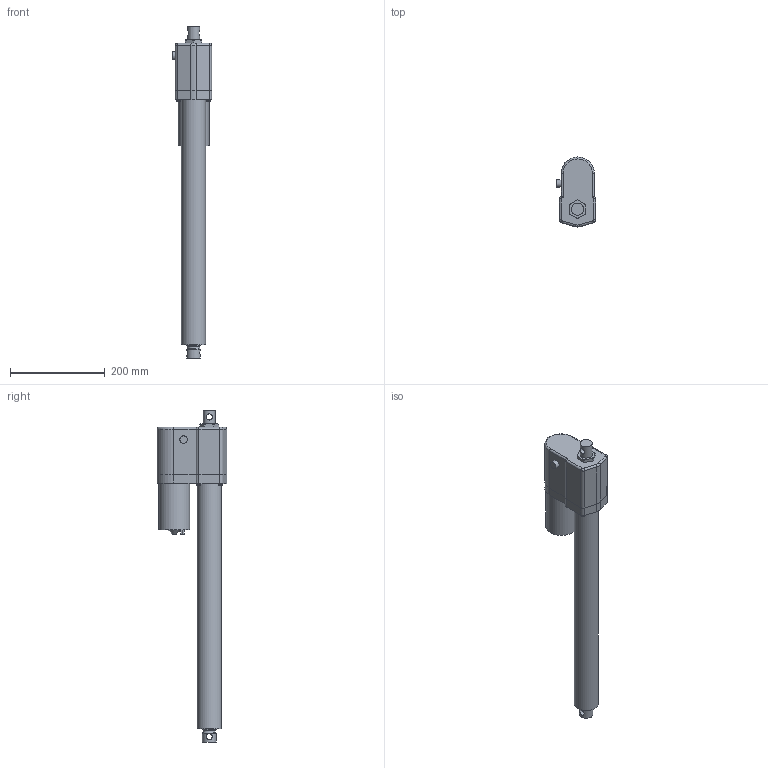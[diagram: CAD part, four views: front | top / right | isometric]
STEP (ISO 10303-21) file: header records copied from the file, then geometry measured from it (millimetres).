
FILE_DESCRIPTION (( 'STEP AP214' ), '1' );
FILE_NAME ('D12-05A5-16M0NPO-tollo.step', '2020-04-13T14:55:41', ( '' ), ( '' ), 'SwSTEP 2.0', 'SolidWorks 2010', '' );
FILE_SCHEMA (( 'AUTOMOTIVE_DESIGN' ));
Length unit declared in the file: millimetre
Products named in the file (6): Electrak-LA10-Motor-D12-05A5-16M0NPO-tollo_Electrak-LA10-Motor-D12-05A5-16M0NPO-tollo; Electrak-LA10-Rear-D12-05A5-16M0NPO-tollo_Electrak-LA10-Rear-D12-05A5-16M0NPO-tollo; Electrak-LA10-Tube-D12-05A5-16M0NPO-tollo_Electrak-LA10-Tube-D12-05A5-16M0NPO-tollo; Electrak-LA10-Rod-D12-05A5-16M0NPO-tollo_Electrak-LA10-Rod-D12-05A5-16M0NPO-tollo; Screw-M6S-M5-D12-05A5-16M0NPO-tollo_Screw-M6S-M5-D12-05A5-16M0NPO-tollo; D12-05A5-16M0NPO-tollo
Assembly tree (8 placements, depth 2):
  D12-05A5-16M0NPO-tollo
    Electrak-LA10-Rod-D12-05A5-16M0NPO-tollo_Electrak-LA10-Rod-D12-05A5-16M0NPO-tollo
    Screw-M6S-M5-D12-05A5-16M0NPO-tollo_Screw-M6S-M5-D12-05A5-16M0NPO-tollo  x4
    Electrak-LA10-Motor-D12-05A5-16M0NPO-tollo_Electrak-LA10-Motor-D12-05A5-16M0NPO-tollo
    Electrak-LA10-Tube-D12-05A5-16M0NPO-tollo_Electrak-LA10-Tube-D12-05A5-16M0NPO-tollo
    Electrak-LA10-Rear-D12-05A5-16M0NPO-tollo_Electrak-LA10-Rear-D12-05A5-16M0NPO-tollo
Bounding box: 82.72 x 147.19 x 699 mm (x, y, z)
Volume: 2521456.5 mm3; surface area: 295143.3 mm2
Topology: 8 solids, 8 shells, 193 faces, 439 edges, 283 vertices
Faces by surface type: plane 82, cylinder 77, cone 22, torus 12
Full cylindrical faces by diameter (mm): 4 x2, 4.126 x4, 4.8 x10, 5 x4, 7.878 x4, 12.8 x2, 16 x1, 25.4 x1, 28.6 x4, 51 x1, 65.3 x1
Entity records: 4139 total; most frequent: CARTESIAN_POINT 1139, DIRECTION 600, ORIENTED_EDGE 476, AXIS2_PLACEMENT_3D 251, EDGE_CURVE 238, EDGE_LOOP 188, VERTEX_POINT 174, FACE_OUTER_BOUND 149
